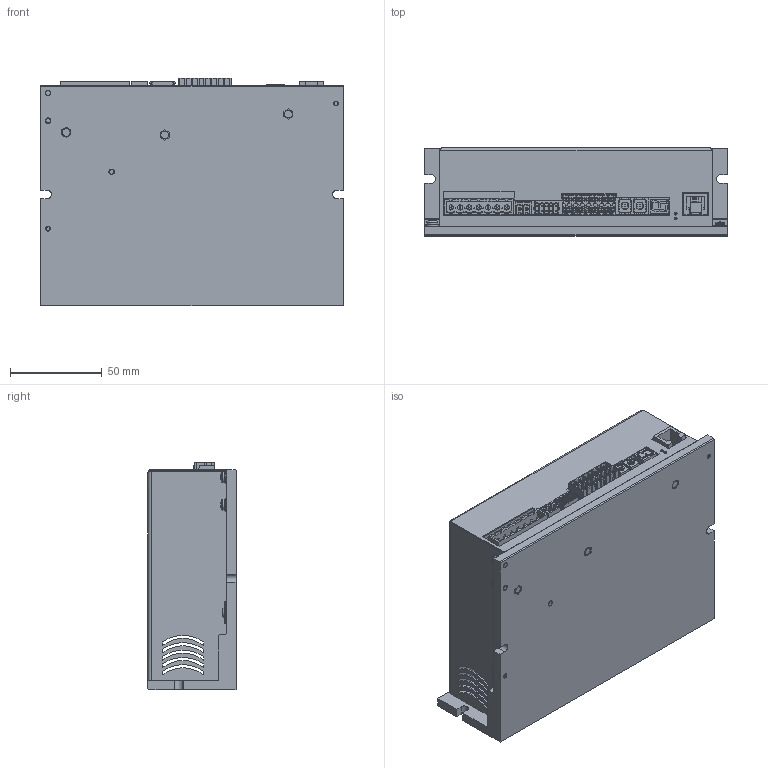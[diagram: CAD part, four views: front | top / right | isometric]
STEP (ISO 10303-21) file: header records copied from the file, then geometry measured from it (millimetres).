
FILE_DESCRIPTION((''),'2;1');
FILE_NAME('SW5A4085_ESD00_ASM','2019-04-02T11:21:09',('Matteo Maccalli'),(''),'CREO PARAMETRIC BY PTC INC, 2017260','CREO PARAMETRIC BY PTC INC, 2017260','');
FILE_SCHEMA(('AUTOMOTIVE_DESIGN { 1 0 10303 214 1 1 1 1 }'));
Products named in the file (48): ESTRUSO_SW5A4085; AD_00979_SW5A4085; INSERTO_M2_5X10MM_OK; BOARD-165; DMC_1_5-8-G1-3_5; 1786895_ASM; CN3_ASM; BOARD-270536; TDS; DISPLAY_ASM; WPW05VIS-01_ASM; VIS500_ASM; DMC_0_5-5-G-2_54_THR; 1844756_ASM; CN4_ASM; MC_1_5-2-G-3_81-P14-THR; PHOENIX_1782352_ASM; CN1L_ASM; RTE0400V04; SW500_ASM; SW501_ASM; 1758636; CN1_ASM; SOLID; COMPOUND; 955012641_ASM; CN6_ASM; J0011D01BNL; CN5A_ASM; CN5B_ASM; LED_HSMX-C680_1; LED_HSMX-C680_2; LED_HSMX-C680_3; LED_HSMX-C680_4; LED_HSMX-C680_ASM; LED602_ASM; LED603_ASM; PCB_ASM; ESD00-00_7_ASM; TCC_M2E5X05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
Assembly tree (57 placements, depth 7):
  SW5A4085_ESD00_ASM
    ESTRUSO_SW5A4085
    AD_00979_SW5A4085
    INSERTO_M2_5X10MM_OK  x3
    ESD00-00_7_ASM
      PCB_ASM
        BOARD-165
        CN3_ASM
          1786895_ASM
            DMC_1_5-8-G1-3_5
        VIS500_ASM
          WPW05VIS-01_ASM
            BOARD-270536
            DISPLAY_ASM
              TDS
        CN4_ASM
          1844756_ASM
            DMC_0_5-5-G-2_54_THR
        CN1L_ASM
          PHOENIX_1782352_ASM
            MC_1_5-2-G-3_81-P14-THR
        SW500_ASM
          RTE0400V04
        SW501_ASM
          RTE0400V04
        CN1_ASM
          1758636
        CN6_ASM
          955012641_ASM
            SOLID
            COMPOUND
        CN5A_ASM
          J0011D01BNL
        CN5B_ASM
          J0011D01BNL
        LED602_ASM
          LED_HSMX-C680_ASM
            LED_HSMX-C680_1
            LED_HSMX-C680_2
            LED_HSMX-C680_3
            LED_HSMX-C680_4
        LED603_ASM
          LED_HSMX-C680_ASM
            LED_HSMX-C680_1
            LED_HSMX-C680_2
            LED_HSMX-C680_3
            LED_HSMX-C680_4
    TCC_M2E5X05  x5
    TCC_M3X08
    SCATOLA_SW5A4085_ESD00_ENET
    TCC_M2E5X05_AF0
    TCC_M2E5X05_AF1
    RONDELLA_DENTELLATA_VITE3MM  x2
    TCC_M3X06_AF0
    TCC_M3X06_AF1
Bounding box: 165 x 48.04 x 124.05 mm (x, y, z)
Volume: 214148.3 mm3; surface area: 183804.8 mm2
Topology: 38 solids, 46 shells, 5782 faces, 15618 edges, 10027 vertices
Faces by surface type: plane 4000, cylinder 1355, cone 224, sphere 98, bspline 46, torus 40, extrusion 19
Entity records: 209728 total; most frequent: CARTESIAN_POINT 36027, ORIENTED_EDGE 26290, DIRECTION 24016, EDGE_CURVE 13161, PRESENTATION_STYLE_ASSIGNMENT 12744, STYLED_ITEM 10135, CURVE_STYLE 10110, VECTOR 9618
